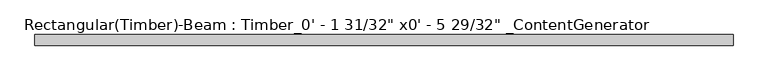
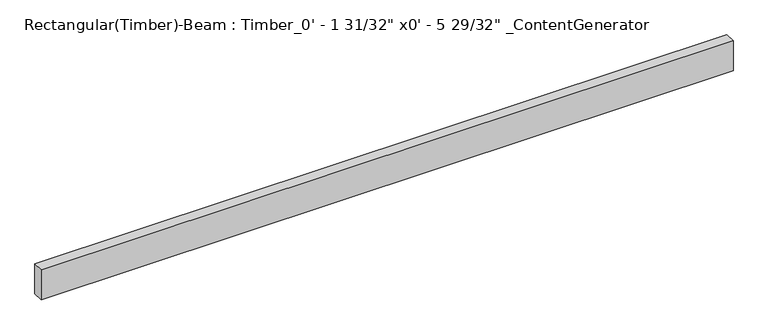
"""IFC4 building model written with IfcOpenShell, lengths in millimetres: beam geometry."""

from ifc_helpers import new_model, si_unit, frame, origin, place, context, project, spatial, polyline, outline, extrude, source, transform, mapped, element, save


def beam_15472744(model_context):
    return source(origin(), model_context, "Body", "SweptSolid", [
        extrude(outline(polyline([(1665.0284875, 25.4), (1665.0284875, -25.4), (-1665.0284875, -25.4), (-1665.0284875, 25.4), (1665.0284875, 25.4)])), frame((0.0, 0.0, -76.2), z_axis=(0.0, 0.0, 1.0), x_axis=(1.0, 0.0, 0.0)), (0.0, 0.0, 1.0), 152.4),
    ])


if __name__ == "__main__":
    model = new_model("IFC4")
    model_context = context("Model", 3, world=origin())
    ifc_project = project(units=[si_unit("LENGTHUNIT", "METRE", prefix="MILLI")], contexts=[model_context])
    site = spatial("IfcSite", under=ifc_project)
    building = spatial("IfcBuilding", under=site)
    placement = place(None, origin())
    beam_shape = beam_15472744(model_context)
    element("IfcBeam", 1, ObjectType="Rectangular(Timber)-Beam : Timber_0' - 1 31/32\" x0' - 5 29/32\" _ContentGenerator", at=placement, inside=building, context=model_context, shape_type="MappedRepresentation", body=[
        mapped(beam_shape, transform((0.0, 0.0, 0.0), x_axis=(1.0, 0.0, 0.0), y_axis=(0.0, 1.0, 0.0), z_axis=(0.0, 0.0, 1.0))),
    ])
    save(model, "model.ifc")
